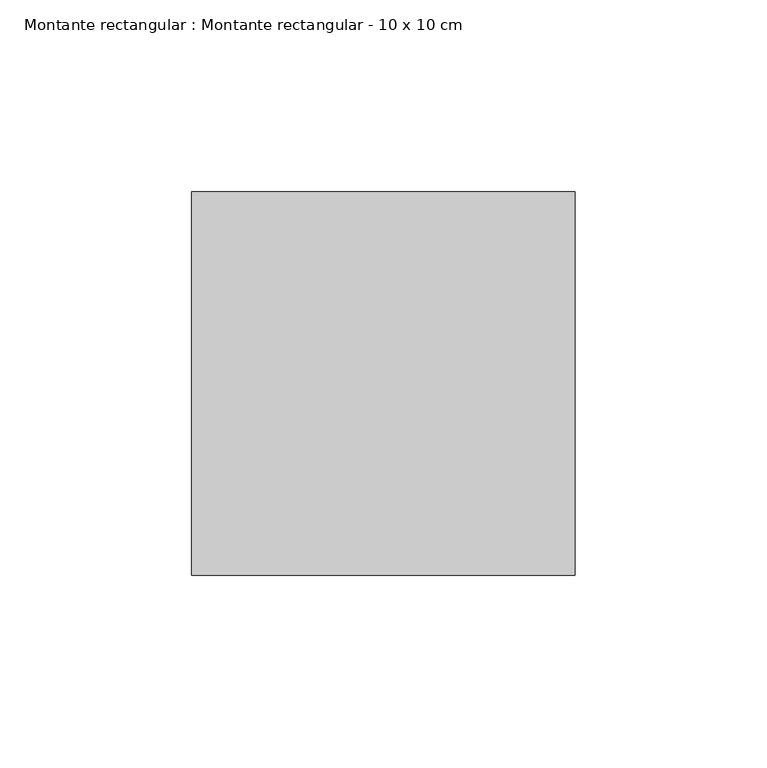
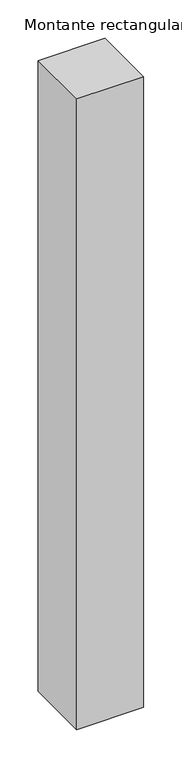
"""IFC4 building model written with IfcOpenShell, lengths in millimetres: member geometry, Montante rectangular : Montante rectangular - 10 x 10 cm."""

from ifc_helpers import new_model, si_unit, frame, origin, place, context, project, spatial, polyline, outline, extrude, source, transform, mapped, element, save


def montante_rectangular_montante_rectangular_10_x_10_cm_c4aca977(model_context):
    return source(origin(), model_context, "Body", "SweptSolid", [
        extrude(outline(polyline([(0.0, -50.0), (-100.0, -50.0), (-100.0, 50.0), (0.0, 50.0), (0.0, -50.0)])), frame((0.0, 0.0, -1000.0), z_axis=(0.0, 0.0, 1.0), x_axis=(1.0, 0.0, 0.0)), (0.0, 0.0, 1.0), 1000.0),
    ])


if __name__ == "__main__":
    model = new_model("IFC4")
    model_context = context("Model", 3, world=origin())
    ifc_project = project(units=[si_unit("LENGTHUNIT", "METRE", prefix="MILLI")], contexts=[model_context])
    site = spatial("IfcSite", under=ifc_project)
    building = spatial("IfcBuilding", under=site)
    placement = place(None, origin())
    montante_rectangular_montante_rectangular_10_x_10_cm_shape = montante_rectangular_montante_rectangular_10_x_10_cm_c4aca977(model_context)
    element("IfcMember", 1, ObjectType="Montante rectangular : Montante rectangular - 10 x 10 cm", at=placement, inside=building, context=model_context, shape_type="MappedRepresentation", body=[
        mapped(montante_rectangular_montante_rectangular_10_x_10_cm_shape, transform((0.0, 0.0, 0.0), x_axis=(1.0, 0.0, 0.0), y_axis=(0.0, 1.0, 0.0), z_axis=(0.0, 0.0, 1.0))),
    ])
    save(model, "model.ifc")
